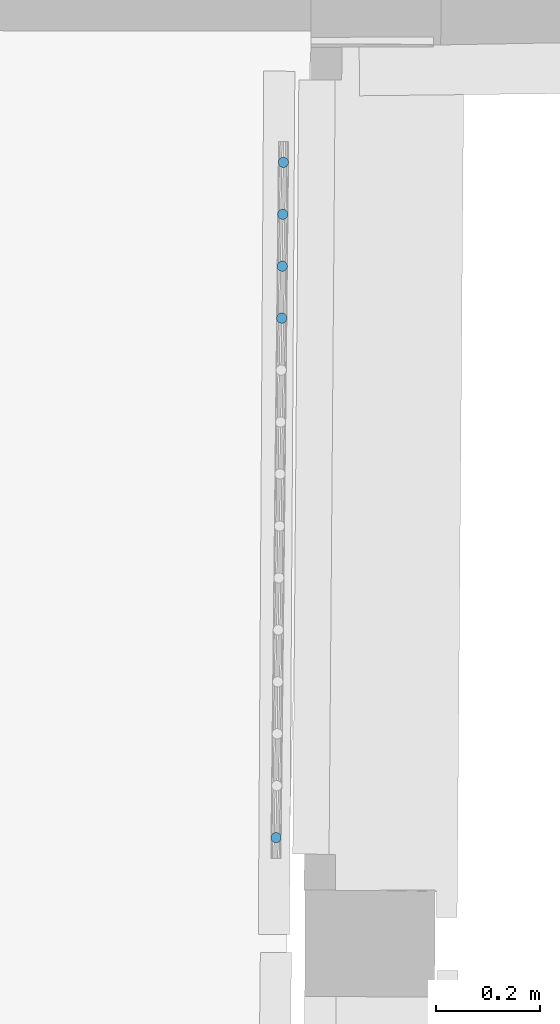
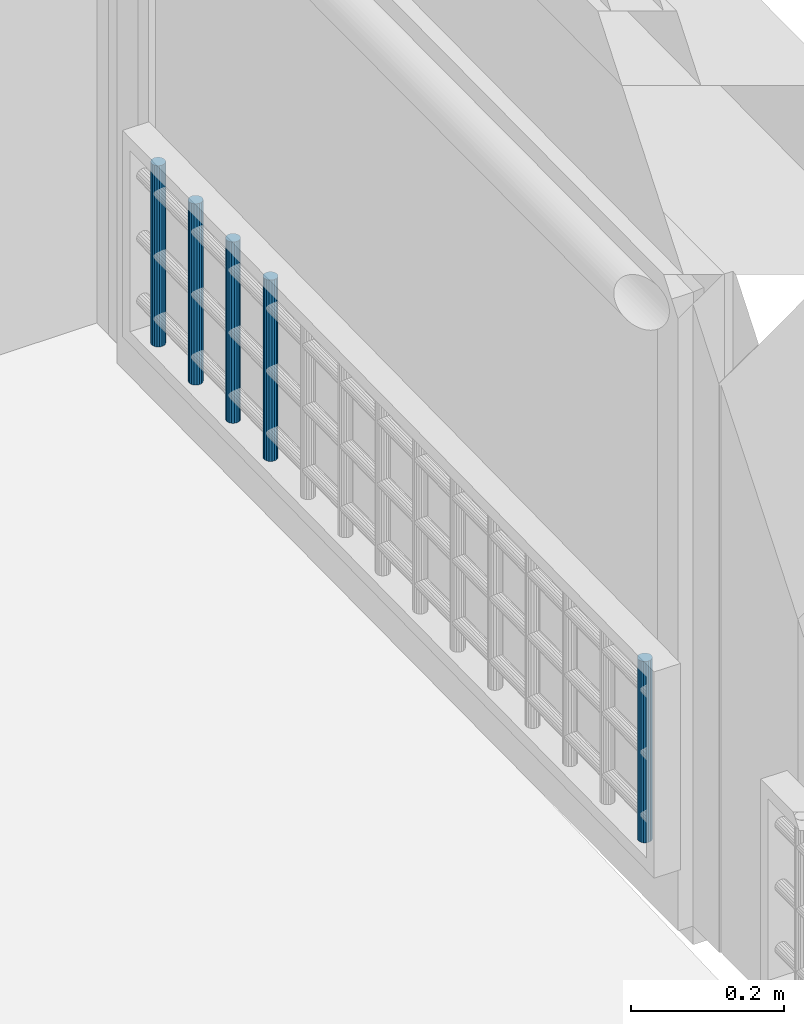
# One storey, part 37 of 97: 5 members, 1 element without a shape of its own.
"""IFC2X3 building model written with IfcOpenShell, lengths in centimetres."""

import ifcopenshell
import ifcopenshell.guid

model = None  # the IFC model being written
_history = None  # IfcOwnerHistory: only IFC2X3 demands one
_inside = {}  # id of a spatial element -> (the spatial element, [elements in it])
_under = {}  # id of a project, library or spatial element -> (it, [spatial elements below it])
_declared = {}  # id of a project -> (the project, [libraries it declares])
_typed = {}  # id of a type object -> (the type object, [elements of that type])
_made_of = {}  # id of a material, layer set ... -> (it, [elements and type objects made of it])


def new_model(schema):
    """Start an empty IFC model of exactly this schema.

    Asked for "IFC4X3", IfcOpenShell would pick the latest addendum, in which some entities
    have other attributes; the version numbers below select the first issue.
    IFC2X3 requires an IfcOwnerHistory on every rooted entity: one is made here for all.
    """
    global model, _history
    if schema == "IFC4X3":
        model = ifcopenshell.file(schema_version=(4, 3, 0, 0))
    else:
        model = ifcopenshell.file(schema=schema)
    _inside.clear()
    _under.clear()
    _declared.clear()
    _typed.clear()
    _made_of.clear()
    _history = None
    if model.schema == "IFC2X3":
        org = make("IfcOrganization", Name="unknown")
        user = make(
            "IfcPersonAndOrganization",
            ThePerson=make("IfcPerson", FamilyName="unknown"),
            TheOrganization=org,
        )
        app = make(
            "IfcApplication",
            ApplicationDeveloper=org,
            Version="unknown",
            ApplicationFullName="unknown",
            ApplicationIdentifier="unknown",
        )
        _history = make(
            "IfcOwnerHistory",
            OwningUser=user,
            OwningApplication=app,
            ChangeAction="ADDED",
            CreationDate=0,
        )
    return model


def make(cls, **values):
    """One entity of the class cls with the attributes given. An attribute that is None is left unset."""
    return model.create_entity(
        cls, **{name: value for name, value in values.items() if value is not None}
    )


def entity(cls, *values):
    """Any entity or typed value of the class cls, its attributes in the order of the schema. None: left unset."""
    e = model.create_entity(cls)
    for i, value in enumerate(values):
        if value is not None:
            e[i] = value
    return e


def rooted(cls, **values):
    """An entity with a GlobalId (a new one), such as an element, a storey or a relation."""
    return make(cls, GlobalId=ifcopenshell.guid.new(), OwnerHistory=_history, **values)


def si_unit(unit_type, name, prefix=None):
    """IfcSIUnit, for example si_unit("LENGTHUNIT", "METRE", prefix="MILLI")."""
    return make("IfcSIUnit", UnitType=unit_type, Prefix=prefix, Name=name)


def converted_unit(unit_type, name, factor, base, dimensions=None, offset=None):
    """IfcConversionBasedUnit, such as the inch: factor (a typed value) times the base unit."""
    return make(
        "IfcConversionBasedUnit"
        if offset is None
        else "IfcConversionBasedUnitWithOffset",
        ConversionOffset=offset,
        Dimensions=None
        if dimensions is None
        else entity("IfcDimensionalExponents", *dimensions),
        UnitType=unit_type,
        Name=name,
        ConversionFactor=make(
            "IfcMeasureWithUnit", ValueComponent=factor, UnitComponent=base
        ),
    )


def assignment(units):
    """IfcUnitAssignment: the units of a project."""
    return None if units is None else make("IfcUnitAssignment", Units=units)


def point(xyz):
    """IfcCartesianPoint."""
    return None if xyz is None else make("IfcCartesianPoint", Coordinates=xyz)


def direction(xyz):
    """IfcDirection."""
    return None if xyz is None else make("IfcDirection", DirectionRatios=xyz)


def frame(location, z_axis=None, x_axis=None):
    """IfcAxis2Placement3D, a coordinate frame: its origin and axes. An axis left out is left unset."""
    return make(
        "IfcAxis2Placement3D",
        Location=point(location),
        Axis=direction(z_axis),
        RefDirection=direction(x_axis),
    )


def origin():
    """The frame at (0, 0, 0) with its axes left unset."""
    return frame((0.0, 0.0, 0.0))


def origin_with_axes():
    """The frame at (0, 0, 0) with the z axis (0, 0, 1) and the x axis (1, 0, 0) written out."""
    return frame((0.0, 0.0, 0.0), z_axis=(0.0, 0.0, 1.0), x_axis=(1.0, 0.0, 0.0))


def place(relative_to, where):
    """IfcLocalPlacement: puts the frame where relative to a parent placement (None: the world)."""
    return make(
        "IfcLocalPlacement", PlacementRelTo=relative_to, RelativePlacement=where
    )


def context(
    kind, dimensions, precision=None, world=None, true_north=None, identifier=None
):
    """IfcGeometricRepresentationContext, for example the 3D "Model" context."""
    return make(
        "IfcGeometricRepresentationContext",
        ContextIdentifier=identifier,
        ContextType=kind,
        CoordinateSpaceDimension=dimensions,
        Precision=precision,
        WorldCoordinateSystem=world,
        TrueNorth=true_north,
    )


def subcontext(parent, identifier, kind, view, scale=None):
    """IfcGeometricRepresentationSubContext, for example "Body" below "Model"."""
    return make(
        "IfcGeometricRepresentationSubContext",
        ContextIdentifier=identifier,
        ContextType=kind,
        ParentContext=parent,
        TargetScale=scale,
        TargetView=view,
    )


def project(units=None, contexts=None):
    """IfcProject with its units and contexts."""
    return rooted(
        "IfcProject",
        Name="project",
        RepresentationContexts=contexts,
        UnitsInContext=assignment(units),
    )


def spatial(cls, under=None, at=None, **own):
    """A site, building, storey or space (cls), placed at a placement, below another one or the project."""
    s = rooted(cls, ObjectPlacement=at, **own)
    if under is not None:
        _under.setdefault(under.id(), (under, []))[1].append(s)
    return s


def faces_of(points, faces, orient=None, outer=None):
    """IfcFace entities. A face is a list of loops; a loop is a list of indices into points, from 0.

    orient and outer hold one flag for each loop. By default every Orientation is true, the
    first loop of a face is its IfcFaceOuterBound and the others are IfcFaceBound.
    """
    made = []
    for i, loops in enumerate(faces):
        bounds = []
        for j, loop in enumerate(loops):
            is_outer = j == 0 if outer is None else outer[i][j]
            bounds.append(
                make(
                    "IfcFaceOuterBound" if is_outer else "IfcFaceBound",
                    Bound=make("IfcPolyLoop", Polygon=[points[k] for k in loop]),
                    Orientation=True if orient is None else orient[i][j],
                )
            )
        made.append(make("IfcFace", Bounds=bounds))
    return made


def faceted_brep(points, faces, orient=None, outer=None, voids=None):
    """IfcFacetedBrep: a solid bounded by flat faces; with voids (closed shells), ...WithVoids."""
    shared = [point(p) for p in points]
    hull = make("IfcClosedShell", CfsFaces=faces_of(shared, faces, orient, outer))
    if voids is None:
        return make("IfcFacetedBrep", Outer=hull)
    return make(
        "IfcFacetedBrepWithVoids",
        Outer=hull,
        Voids=[
            make(cls, CfsFaces=faces_of(shared, fs, o, b)) for cls, fs, o, b in voids
        ],
    )


def shape(context_of_items, identifier, shape_type, items):
    """IfcShapeRepresentation: the items that make up one representation, for example the "Body"."""
    return make(
        "IfcShapeRepresentation",
        ContextOfItems=context_of_items,
        RepresentationIdentifier=identifier,
        RepresentationType=shape_type,
        Items=items,
    )


def material(Name=None, Category=None):
    """IfcMaterial."""
    return make("IfcMaterial", Name=Name, Category=Category)


def made_of(thing, what):
    """Note that an element or type object is made of a material, layer set ...; save() writes the relation."""
    if what is not None:
        _made_of.setdefault(what.id(), (what, []))[1].append(thing)
    return thing


def type_object(cls, material=None, **own):
    """A type object (cls), such as IfcWallType, which elements share."""
    return made_of(rooted(cls, **own), material)


def element(
    cls,
    number,
    at=None,
    inside=None,
    cuts=None,
    type_object=None,
    material=None,
    context=None,
    identifier="Body",
    shape_type=None,
    held_by="IfcProductDefinitionShape",
    body=None,
    shapes=None,
    **own,
):
    """One element of the class cls, such as IfcWall. Its Tag is "e" and its number.

    at: its placement. inside: the storey or other place that contains it. cuts: it is an
    opening in that element (IfcRelVoidsElement). A single representation is given by context,
    identifier, shape_type and body (its items); several are given by shapes. held_by: the class
    of the entity that holds the representations. save() writes the other relations.
    """
    e = rooted(cls, Tag="e%d" % number, ObjectPlacement=at, **own)
    if body is not None:
        shapes = [shape(context, identifier, shape_type, body)]
    if shapes is not None:
        e.Representation = make(held_by, Representations=shapes)
    if inside is not None:
        _inside.setdefault(inside.id(), (inside, []))[1].append(e)
    if cuts is not None:
        rooted(
            "IfcRelVoidsElement", RelatingBuildingElement=cuts, RelatedOpeningElement=e
        )
    if type_object is not None:
        _typed.setdefault(type_object.id(), (type_object, []))[1].append(e)
    return made_of(e, material)


def aggregate(whole, parts):
    """IfcRelAggregates: a whole, such as a stair, and the parts it consists of."""
    return rooted("IfcRelAggregates", RelatingObject=whole, RelatedObjects=parts)


def save(model, path):
    """Write the relations noted so far, then the file.

    IfcRelAggregates (storeys below a building ...), IfcRelContainedInSpatialStructure (elements
    in a storey), IfcRelDefinesByType, IfcRelAssociatesMaterial and IfcRelDeclares: one each for
    every whole, place, type object, material and project.
    """
    for whole, parts in _under.values():
        aggregate(whole, parts)
    for where, things in _inside.values():
        rooted(
            "IfcRelContainedInSpatialStructure",
            RelatedElements=things,
            RelatingStructure=where,
        )
    for kind, things in _typed.values():
        rooted("IfcRelDefinesByType", RelatedObjects=things, RelatingType=kind)
    for what, things in _made_of.values():
        rooted("IfcRelAssociatesMaterial", RelatedObjects=things, RelatingMaterial=what)
    for by, libraries in _declared.values():
        rooted("IfcRelDeclares", RelatingContext=by, RelatedDefinitions=libraries)
    model.write(path)


model = new_model("IFC2X3")

# Units and contexts
model_context = context("Model", 3, precision=0.0001, world=origin(), true_north=direction((0.225632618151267, 0.974212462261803, 0.0)))
body_context = subcontext(model_context, "Body", "Model", "MODEL_VIEW")
ifc_project = project(units=[si_unit("LENGTHUNIT", "METRE", prefix="CENTI"), si_unit("AREAUNIT", "SQUARE_METRE", prefix="CENTI"), si_unit("VOLUMEUNIT", "CUBIC_METRE", prefix="CENTI"), converted_unit("PLANEANGLEUNIT", "DEGREE", entity("IfcRatioMeasure", 0.0174532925), si_unit("PLANEANGLEUNIT", "RADIAN"), dimensions=[0, 0, 0, 0, 0, 0, 0])], contexts=[model_context])

# Site, building, storey
site_placement = place(None, origin_with_axes())
site = spatial("IfcSite", under=ifc_project, at=site_placement, Name="Default Site", CompositionType="ELEMENT")
building_placement = place(site_placement, origin_with_axes())
building = spatial("IfcBuilding", under=site, at=building_placement, Name="Default Building", CompositionType="ELEMENT")
storey_placement = place(building_placement, origin_with_axes())
storey = spatial("IfcBuildingStorey", under=building, at=storey_placement, Name="Rez-de-chaussée", CompositionType="ELEMENT", Elevation=0.0)

# Assembly, members
building_element_proxy_type = type_object("IfcBuildingElementProxyType", Name="Type Object", PredefinedType="NOTDEFINED")
assembly_placement = place(storey_placement, frame((1067.41070761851, 134.057314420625, 12.0), z_axis=(0.0, 0.0, 1.0), x_axis=(-0.0108104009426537, -0.999941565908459, 0.0)))
assembly = element("IfcElementAssembly", 1, at=assembly_placement, inside=storey, type_object=building_element_proxy_type, Name="Panneau 1702033", ObjectType="Precast panel", PredefinedType="USERDEFINED")
ifc_material = material(Name="Aluminium satiné")
member_1_placement = place(assembly_placement, frame((6.9396927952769, 0.342020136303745, 31.0000002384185), z_axis=(0.0, 0.0, 1.0), x_axis=(0.500000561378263, -0.866025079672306, 0.0)))
member_1 = element("IfcMember", 2, at=member_1_placement, material=ifc_material, Name="4294967093", context=body_context, shape_type="Brep", body=[
    faceted_brep([(-1.05818132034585e-12, 4.08006961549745e-13, 4.9960036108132e-14), (-0.347296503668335, 4.3229309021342e-13, 4.9960036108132e-14), (-0.673648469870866, -0.118782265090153, 4.9960036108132e-14), (-0.939692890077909, -0.342019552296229, 4.9960036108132e-14), (-1.11334134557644, -0.642787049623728, 4.9960036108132e-14), (-1.17364892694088, -0.984807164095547, 4.9960036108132e-14), (-1.11334184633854, -1.3268274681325, 4.9960036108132e-14), (-0.939693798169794, -1.62759496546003, 4.9960036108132e-14), (-0.673649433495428, -1.85083280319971, 4.9960036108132e-14), (-0.34729776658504, -1.96961548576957, 4.9960036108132e-14), (-1.44918248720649e-06, -1.96961580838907, 4.9960036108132e-14), (0.326350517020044, -1.85083354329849, 4.9960036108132e-14), (0.592395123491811, -1.62759593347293, 4.9960036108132e-14), (0.766043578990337, -1.32682843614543, 4.9960036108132e-14), (0.826350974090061, -0.984808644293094, 4.9960036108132e-14), (0.766043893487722, -0.642788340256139, 4.9960036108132e-14), (0.592396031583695, -0.342020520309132, 4.9960036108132e-14), (0.32635166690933, -0.118782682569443, 4.9960036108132e-14), (0.32635166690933, -0.118782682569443, -29.000000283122), (0.592396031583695, -0.342020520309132, -29.000000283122), (0.766043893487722, -0.642788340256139, -29.000000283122), (0.826350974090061, -0.984808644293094, -29.000000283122), (0.766043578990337, -1.32682843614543, -29.000000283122), (0.592395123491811, -1.62759593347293, -29.000000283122), (0.326350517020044, -1.85083354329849, -29.000000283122), (-1.44918248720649e-06, -1.96961580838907, -29.000000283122), (-0.34729776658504, -1.96961548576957, -29.000000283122), (-0.673649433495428, -1.85083280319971, -29.000000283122), (-0.939693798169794, -1.62759496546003, -29.000000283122), (-1.11334184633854, -1.3268274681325, -29.000000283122), (-1.17364892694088, -0.984807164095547, -29.000000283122), (-1.11334134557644, -0.642787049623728, -29.000000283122), (-0.939692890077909, -0.342019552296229, -29.000000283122), (-0.673648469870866, -0.118782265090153, -29.000000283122), (-0.347296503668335, 4.3229309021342e-13, -29.000000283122), (-1.05818132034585e-12, 4.08006961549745e-13, -29.000000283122), (0.592395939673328, -0.342020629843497, 4.99600361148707e-14), (0.592395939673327, -0.342020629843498, -29.000000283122), (0.326351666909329, -0.118782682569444, -29.000000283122), (0.766044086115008, -0.642788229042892, 4.9960036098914e-14), (0.766044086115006, -0.642788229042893, -29.000000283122), (0.592396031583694, -0.342020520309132, -29.000000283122), (0.826351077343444, -0.984808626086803, 4.99600361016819e-14), (0.826351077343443, -0.984808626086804, -29.000000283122), (0.76604389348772, -0.642788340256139, -29.000000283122), (0.766043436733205, -1.32682841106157, 4.99600361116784e-14), (0.766043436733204, -1.32682841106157, -29.000000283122), (0.59239512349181, -1.62759593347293, 4.9960036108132e-14), (0.59239512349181, -1.62759593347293, -29.000000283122), (0.32635052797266, -1.85083355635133, 4.99600361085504e-14), (0.326350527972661, -1.85083355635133, -29.000000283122), (-1.48504194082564e-06, -1.96961570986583, 4.99600361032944e-14), (-1.48504194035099e-06, -1.96961570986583, -29.000000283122), (0.326350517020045, -1.85083354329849, -29.000000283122), (-0.347297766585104, -1.96961558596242, 4.99600361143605e-14), (-0.347297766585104, -1.96961558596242, -29.000000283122), (-1.44918248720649e-06, -1.96961580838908, -29.000000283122), (-0.673649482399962, -1.85083293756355, 4.996003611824e-14), (-0.673649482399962, -1.85083293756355, -29.000000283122), (-0.939693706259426, -1.62759485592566, 4.99600360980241e-14), (-0.939693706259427, -1.62759485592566, -29.000000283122), (-0.673649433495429, -1.85083280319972, -29.000000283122), (-1.11334175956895, -1.32682741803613, 4.99600361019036e-14), (-1.11334175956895, -1.32682741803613, -29.000000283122), (-0.939693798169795, -1.62759496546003, -29.000000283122), (-1.17364903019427, -0.984807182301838, 4.99600361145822e-14), (-1.17364903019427, -0.984807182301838, -29.000000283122), (-1.11334184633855, -1.3268274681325, -29.000000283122), (-1.11334132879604, -0.642787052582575, 4.99600361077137e-14), (-1.11334132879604, -0.642787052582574, -29.000000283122), (-0.673648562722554, -0.118782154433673, 4.99600361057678e-14), (-0.673648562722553, -0.118782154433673, -29.000000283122), (-0.347296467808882, -9.85228126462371e-08, 4.99600361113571e-14), (-0.347296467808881, -9.85228134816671e-08, -29.000000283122), (-1.20063499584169e-12, -2.22426339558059e-07, 4.99600361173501e-14), (-1.20063499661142e-12, -2.2242634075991e-07, -29.000000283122), (-0.347296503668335, 4.31091238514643e-13, -29.000000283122), (0.326351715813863, -0.11878254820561, 4.99600361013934e-14), (0.326351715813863, -0.118782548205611, -29.000000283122), (-1.05864875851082e-12, 4.06722688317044e-13, -29.000000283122)], [[[0, 1, 2, 3, 4, 5, 6, 7, 8, 9, 10, 11, 12, 13, 14, 15, 16, 17]], [[18, 19, 20, 21, 22, 23, 24, 25, 26, 27, 28, 29, 30, 31, 32, 33, 34, 35]], [[17, 36, 37, 38]], [[16, 39, 40, 41]], [[15, 42, 43, 44]], [[14, 45, 46, 21]], [[13, 47, 48, 22]], [[12, 49, 50, 23]], [[11, 51, 52, 53]], [[10, 54, 55, 56]], [[9, 57, 58, 26]], [[8, 59, 60, 61]], [[7, 62, 63, 64]], [[6, 65, 66, 67]], [[5, 68, 69, 30]], [[4, 3, 32, 31]], [[3, 70, 71, 32]], [[2, 72, 73, 33]], [[1, 74, 75, 76]], [[0, 77, 78, 79]]]),
])
member_2_placement = place(assembly_placement, frame((16.9396921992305, 0.342020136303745, 31.0000002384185), z_axis=(0.0, 0.0, 1.0), x_axis=(0.49999895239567, -0.866026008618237, 0.0)))
member_2 = element("IfcMember", 3, at=member_2_placement, material=ifc_material, Name="4294967092", context=body_context, shape_type="Brep", body=[
    faceted_brep([(-1.17683640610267e-12, 5.13478148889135e-13, 4.9960036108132e-14), (-0.347296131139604, 5.35682609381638e-13, 4.9960036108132e-14), (-0.673647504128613, -0.118782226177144, 4.9960036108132e-14), (-0.93969169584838, -0.342020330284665, 4.9960036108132e-14), (-1.11333977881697, -0.642788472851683, 4.9960036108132e-14), (-1.17364672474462, -0.984808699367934, 4.9960036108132e-14), (-1.11333863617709, -1.32682824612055, 4.9960036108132e-14), (-0.939690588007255, -1.62759638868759, 4.9960036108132e-14), (-0.673645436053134, -1.85083308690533, 4.9960036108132e-14), (-0.347293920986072, -1.96961580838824, 4.9960036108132e-14), (2.95520885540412e-06, -1.96961451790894, 4.9960036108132e-14), (0.326354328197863, -1.85083229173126, 4.9960036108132e-14), (0.592398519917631, -1.62759418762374, 4.9960036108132e-14), (0.766046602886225, -1.32682604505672, 4.9960036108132e-14), (0.826353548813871, -0.984805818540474, 4.9960036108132e-14), (0.76604546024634, -0.642786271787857, 4.9960036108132e-14), (0.592396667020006, -0.342019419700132, 4.9960036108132e-14), (0.326352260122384, -0.11878143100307, 4.9960036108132e-14), (0.326352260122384, -0.11878143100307, -29.000000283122), (0.592396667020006, -0.342019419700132, -29.000000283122), (0.76604546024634, -0.642786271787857, -29.000000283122), (0.826353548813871, -0.984805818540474, -29.000000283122), (0.766046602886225, -1.32682604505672, -29.000000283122), (0.592398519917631, -1.62759418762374, -29.000000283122), (0.326354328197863, -1.85083229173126, -29.000000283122), (2.95520885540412e-06, -1.96961451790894, -29.000000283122), (-0.347293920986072, -1.96961580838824, -29.000000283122), (-0.673645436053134, -1.85083308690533, -29.000000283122), (-0.939690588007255, -1.62759638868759, -29.000000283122), (-1.11333863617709, -1.32682824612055, -29.000000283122), (-1.17364672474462, -0.984808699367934, -29.000000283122), (-1.11333977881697, -0.642788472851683, -29.000000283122), (-0.93969169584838, -0.342020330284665, -29.000000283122), (-0.673647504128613, -0.118782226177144, -29.000000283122), (-0.347296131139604, 5.35682609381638e-13, -29.000000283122), (-1.17683640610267e-12, 5.13478148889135e-13, -29.000000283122), (0.592397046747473, -0.342018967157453, 4.99600360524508e-14), (0.592397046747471, -0.342018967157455, -29.000000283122), (0.326352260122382, -0.118781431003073, -29.000000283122), (0.766045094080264, -0.642786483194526, 4.99600361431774e-14), (0.766045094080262, -0.642786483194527, -29.000000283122), (0.592396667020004, -0.342019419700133, -29.000000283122), (0.826353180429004, -0.984805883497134, 4.99600361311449e-14), (0.826353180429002, -0.984805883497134, -29.000000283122), (0.766045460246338, -0.642786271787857, -29.000000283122), (0.766046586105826, -1.32682604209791, 4.99600361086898e-14), (0.766046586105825, -1.32682604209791, -29.000000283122), (0.82635354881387, -0.984805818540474, -29.000000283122), (0.326354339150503, -1.85083230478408, 4.99600361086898e-14), (0.326354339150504, -1.85083230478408, -29.000000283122), (3.08314802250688e-06, -1.96961486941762, 4.9960036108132e-14), (3.08314802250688e-06, -1.96961486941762, -29.000000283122), (-0.347293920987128, -1.96961494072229, 4.99600360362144e-14), (-0.347293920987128, -1.96961494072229, -29.000000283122), (2.95520885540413e-06, -1.96961451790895, -29.000000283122), (-0.673645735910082, -1.85083391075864, 4.99600361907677e-14), (-0.673645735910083, -1.85083391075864, -29.000000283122), (-0.347293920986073, -1.96961580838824, -29.000000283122), (-0.939690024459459, -1.62759571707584, 4.99600360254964e-14), (-0.939690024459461, -1.62759571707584, -29.000000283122), (-0.673645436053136, -1.85083308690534, -29.000000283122), (-1.11333938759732, -1.32682867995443, 4.9960036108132e-14), (-1.11333938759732, -1.32682867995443, -29.000000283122), (-1.17364635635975, -0.984808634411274, 4.99600360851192e-14), (-1.17364635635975, -0.984808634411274, -29.000000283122), (-1.11333976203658, -0.642788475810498, 4.99600361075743e-14), (-1.11333976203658, -0.642788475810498, -29.000000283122), (-0.673647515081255, -0.118782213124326, 4.99600361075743e-14), (-0.673647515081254, -0.118782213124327, -29.000000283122), (-0.939691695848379, -0.342020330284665, -29.000000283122), (-0.347296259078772, 3.51509210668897e-07, 4.99600360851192e-14), (-0.347296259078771, 3.51509208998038e-07, -29.000000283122), (-0.673647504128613, -0.118782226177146, -29.000000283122), (-1.69158549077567e-12, 4.2281297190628e-07, 4.99600360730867e-14), (-1.69158548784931e-12, 4.22812969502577e-07, -29.000000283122), (-0.347296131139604, 5.33278905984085e-13, -29.000000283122), (0.326352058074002, -0.118781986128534, 4.99600361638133e-14), (0.326352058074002, -0.118781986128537, -29.000000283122), (-1.17777127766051e-12, 5.10909600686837e-13, -29.000000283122)], [[[0, 1, 2, 3, 4, 5, 6, 7, 8, 9, 10, 11, 12, 13, 14, 15, 16, 17]], [[18, 19, 20, 21, 22, 23, 24, 25, 26, 27, 28, 29, 30, 31, 32, 33, 34, 35]], [[17, 36, 37, 38]], [[16, 39, 40, 41]], [[15, 42, 43, 44]], [[14, 45, 46, 47]], [[13, 12, 23, 22]], [[12, 48, 49, 23]], [[11, 50, 51, 24]], [[10, 52, 53, 54]], [[9, 55, 56, 57]], [[8, 58, 59, 60]], [[7, 61, 62, 28]], [[6, 63, 64, 29]], [[5, 65, 66, 30]], [[4, 3, 32, 31]], [[3, 67, 68, 69]], [[2, 70, 71, 72]], [[1, 73, 74, 75]], [[0, 76, 77, 78]]]),
])
member_3_placement = place(assembly_placement, frame((26.9396930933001, 0.342020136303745, 31.0000002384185), z_axis=(0.0, 0.0, 1.0), x_axis=(0.500002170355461, -0.866024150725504, 0.0)))
member_3 = element("IfcMember", 4, at=member_3_placement, material=ifc_material, Name="4294967091", context=body_context, shape_type="Brep", body=[
    faceted_brep([(-1.25177646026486e-12, 4.96824803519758e-13, 4.9960036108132e-14), (-0.347296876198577, 4.413136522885e-13, 4.9960036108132e-14), (-0.673649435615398, -0.11878230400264, 4.9960036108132e-14), (-0.939693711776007, -0.342018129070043, 4.9960036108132e-14), (-1.11334216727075, -0.642784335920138, 4.9960036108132e-14), (-1.17365112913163, -0.984805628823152, 4.9960036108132e-14), (-1.11334505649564, -1.32682669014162, 4.9960036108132e-14), (-0.939696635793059, -1.62759289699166, 4.9960036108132e-14), (-0.673653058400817, -1.85083187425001, 4.9960036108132e-14), (-0.347301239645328, -1.9696145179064, 4.9960036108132e-14), (-5.85357059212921e-06, -1.96961709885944, 4.9960036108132e-14), (0.326346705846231, -1.85083479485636, 4.9960036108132e-14), (0.592392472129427, -1.62759638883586, 4.9960036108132e-14), (0.766040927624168, -1.32683018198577, 4.9960036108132e-14), (0.826348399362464, -0.984811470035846, 4.9960036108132e-14), (0.766042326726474, -0.642790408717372, 4.9960036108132e-14), (0.592395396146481, -0.342021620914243, 4.9960036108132e-14), (0.326351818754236, -0.118782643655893, 4.9960036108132e-14), (0.326351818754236, -0.118782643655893, -29.000000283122), (0.592395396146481, -0.342021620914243, -29.000000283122), (0.766042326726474, -0.642790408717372, -29.000000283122), (0.826348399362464, -0.984811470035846, -29.000000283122), (0.766040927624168, -1.32683018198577, -29.000000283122), (0.592392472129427, -1.62759638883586, -29.000000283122), (0.326346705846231, -1.85083479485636, -29.000000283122), (-5.85357059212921e-06, -1.96961709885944, -29.000000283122), (-0.347301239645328, -1.9696145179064, -29.000000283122), (-0.673653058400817, -1.85083187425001, -29.000000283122), (-0.939696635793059, -1.62759289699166, -29.000000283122), (-1.11334505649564, -1.32682669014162, -29.000000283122), (-1.17365112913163, -0.984805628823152, -29.000000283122), (-1.11334216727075, -0.642784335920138, -29.000000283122), (-0.939693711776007, -0.342018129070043, -29.000000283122), (-0.673649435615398, -0.11878230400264, -29.000000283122), (-0.347296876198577, 4.413136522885e-13, -29.000000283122), (-1.25177646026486e-12, 4.96824803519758e-13, -29.000000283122), (0.592395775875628, -0.342021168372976, 4.9960036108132e-14), (0.592395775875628, -0.342021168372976, -29.000000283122), (0.766043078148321, -0.642789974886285, 4.99600359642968e-14), (0.766043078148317, -0.642789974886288, -29.000000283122), (0.592395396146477, -0.342021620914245, -29.000000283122), (0.826348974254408, -0.984811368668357, 4.99600360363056e-14), (0.826348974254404, -0.984811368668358, -29.000000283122), (0.76604232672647, -0.642790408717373, -29.000000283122), (0.766040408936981, -1.32683009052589, 4.99600361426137e-14), (0.766040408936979, -1.32683009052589, -29.000000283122), (0.826348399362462, -0.984811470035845, -29.000000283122), (0.592392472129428, -1.62759638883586, 4.9960036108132e-14), (0.592392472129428, -1.62759638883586, -29.000000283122), (0.326346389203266, -1.85083441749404, 4.99600360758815e-14), (0.326346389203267, -1.85083441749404, -29.000000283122), (-6.0532269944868e-06, -1.96961655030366, 4.9960036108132e-14), (-6.0532269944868e-06, -1.96961655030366, -29.000000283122), (-0.347301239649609, -1.96961623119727, 4.9960036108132e-14), (-0.347301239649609, -1.96961623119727, -29.000000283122), (-0.673652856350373, -1.8508313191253, 4.99600360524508e-14), (-0.673652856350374, -1.8508313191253, -29.000000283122), (-0.347301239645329, -1.9696145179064, -29.000000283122), (-0.939697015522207, -1.62759334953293, 4.9960036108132e-14), (-0.939697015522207, -1.62759334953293, -29.000000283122), (-1.11334357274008, -1.32682583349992, 4.9960036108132e-14), (-1.11334357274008, -1.32682583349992, -29.000000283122), (-1.17365170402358, -0.98480573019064, 4.99600361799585e-14), (-1.17365170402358, -0.984805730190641, -29.000000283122), (-1.11334505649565, -1.32682669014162, -29.000000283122), (-1.11334265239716, -0.642784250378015, 4.99600361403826e-14), (-1.11334265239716, -0.642784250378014, -29.000000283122), (-1.17365112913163, -0.984805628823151, -29.000000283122), (-0.939693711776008, -0.342018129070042, 4.9960036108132e-14), (-0.939693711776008, -0.342018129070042, -29.000000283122), (-0.673649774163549, -0.118781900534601, 4.99600360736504e-14), (-0.673649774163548, -0.118781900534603, -29.000000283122), (-0.939693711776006, -0.342018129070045, -29.000000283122), (-0.347296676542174, -5.48555335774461e-07, 4.99600361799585e-14), (-0.347296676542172, -5.48555339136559e-07, -29.000000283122), (-0.673649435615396, -0.118782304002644, -29.000000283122), (-3.41950154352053e-12, -8.67665451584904e-07, 4.9960036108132e-14), (-3.41950154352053e-12, -8.67665451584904e-07, -29.000000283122), (0.326351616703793, -0.118783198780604, 4.99600362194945e-14), (0.326351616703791, -0.118783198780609, -29.000000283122), (-1.25364622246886e-12, 4.91687714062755e-13, -29.000000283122)], [[[0, 1, 2, 3, 4, 5, 6, 7, 8, 9, 10, 11, 12, 13, 14, 15, 16, 17]], [[18, 19, 20, 21, 22, 23, 24, 25, 26, 27, 28, 29, 30, 31, 32, 33, 34, 35]], [[17, 36, 37, 18]], [[16, 38, 39, 40]], [[15, 41, 42, 43]], [[14, 44, 45, 46]], [[13, 47, 48, 22]], [[12, 49, 50, 48]], [[11, 51, 52, 24]], [[10, 53, 54, 25]], [[9, 55, 56, 57]], [[8, 58, 59, 27]], [[7, 60, 61, 28]], [[6, 62, 63, 64]], [[5, 65, 66, 67]], [[4, 68, 69, 31]], [[3, 70, 71, 72]], [[2, 73, 74, 75]], [[1, 76, 77, 34]], [[0, 78, 79, 80]]]),
])
member_4_placement = place(assembly_placement, frame((36.9396924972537, 0.342020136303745, 31.0000002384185), z_axis=(0.0, 0.0, 1.0), x_axis=(0.500002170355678, -0.866024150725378, 0.0)))
member_4 = element("IfcMember", 5, at=member_4_placement, material=ifc_material, Name="4294967090", context=body_context, shape_type="Brep", body=[
    faceted_brep([(-9.6034291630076e-13, 4.55191440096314e-13, 4.9960036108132e-14), (-0.347296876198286, 4.82947015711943e-13, 4.9960036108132e-14), (-0.67364794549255, -0.118779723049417, 4.9960036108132e-14), (-0.939693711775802, -0.342018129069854, 4.9960036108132e-14), (-1.11334216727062, -0.642784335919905, 4.9960036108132e-14), (-1.17365112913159, -0.984805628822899, 4.9960036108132e-14), (-1.1133435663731, -1.3268241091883, 4.9960036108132e-14), (-0.939696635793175, -1.62759289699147, 4.9960036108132e-14), (-0.673653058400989, -1.85083187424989, 4.9960036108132e-14), (-0.347301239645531, -1.96961451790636, 4.9960036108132e-14), (-4.36344820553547e-06, -1.96961451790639, 4.9960036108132e-14), (0.326346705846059, -1.85083479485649, 4.9960036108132e-14), (0.592392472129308, -1.62759638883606, 4.9960036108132e-14), (0.766040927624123, -1.32683018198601, 4.9960036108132e-14), (0.826349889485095, -0.984808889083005, 4.9960036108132e-14), (0.766042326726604, -0.642790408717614, 4.9960036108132e-14), (0.592395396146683, -0.342021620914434, 4.9960036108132e-14), (0.326351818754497, -0.118782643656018, 4.9960036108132e-14), (0.326351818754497, -0.118782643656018, -29.000000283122), (0.592395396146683, -0.342021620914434, -29.000000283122), (0.766042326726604, -0.642790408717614, -29.000000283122), (0.826349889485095, -0.984808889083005, -29.000000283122), (0.766040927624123, -1.32683018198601, -29.000000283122), (0.592392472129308, -1.62759638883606, -29.000000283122), (0.326346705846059, -1.85083479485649, -29.000000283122), (-4.36344820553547e-06, -1.96961451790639, -29.000000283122), (-0.347301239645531, -1.96961451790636, -29.000000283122), (-0.673653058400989, -1.85083187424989, -29.000000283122), (-0.939696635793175, -1.62759289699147, -29.000000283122), (-1.1133435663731, -1.3268241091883, -29.000000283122), (-1.17365112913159, -0.984805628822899, -29.000000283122), (-1.11334216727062, -0.642784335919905, -29.000000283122), (-0.939693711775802, -0.342018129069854, -29.000000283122), (-0.67364794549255, -0.118779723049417, -29.000000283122), (-0.347296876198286, 4.82947015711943e-13, -29.000000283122), (-9.6034291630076e-13, 4.55191440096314e-13, -29.000000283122), (0.592395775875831, -0.342021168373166, 4.9960036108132e-14), (0.592395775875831, -0.342021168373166, -29.000000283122), (0.766043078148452, -0.642789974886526, 4.9960036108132e-14), (0.766043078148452, -0.642789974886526, -29.000000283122), (0.826348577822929, -0.984809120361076, 4.9960036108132e-14), (0.826348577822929, -0.984809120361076, -29.000000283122), (0.766041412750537, -1.32683026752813, 4.9960036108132e-14), (0.766041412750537, -1.32683026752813, -29.000000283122), (0.592392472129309, -1.62759638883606, 4.9960036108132e-14), (0.592392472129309, -1.62759638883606, -29.000000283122), (0.326346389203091, -1.85083441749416, 4.9960036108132e-14), (0.326346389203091, -1.85083441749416, -29.000000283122), (-3.90791608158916e-06, -1.96961576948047, 4.9960036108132e-14), (-3.90791608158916e-06, -1.96961576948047, -29.000000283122), (-0.347301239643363, -1.96961365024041, 4.9960036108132e-14), (-0.347301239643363, -1.96961365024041, -29.000000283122), (-0.673652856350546, -1.85083131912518, 4.9960036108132e-14), (-0.673652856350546, -1.85083131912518, -29.000000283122), (-0.939697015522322, -1.62759334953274, 4.9960036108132e-14), (-0.939697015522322, -1.62759334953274, -29.000000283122), (-1.11334431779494, -1.32682454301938, 4.9960036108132e-14), (-1.11334431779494, -1.32682454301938, -29.000000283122), (-1.17364981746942, -0.984805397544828, 4.9960036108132e-14), (-1.17364981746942, -0.984805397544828, -29.000000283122), (-1.11334265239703, -0.642784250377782, 4.9960036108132e-14), (-1.11334265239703, -0.642784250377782, -29.000000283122), (-0.939693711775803, -0.342018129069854, 4.9960036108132e-14), (-0.939693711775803, -0.342018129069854, -29.000000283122), (-0.673647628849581, -0.118780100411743, 4.9960036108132e-14), (-0.673647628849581, -0.118780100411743, -29.000000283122), (-0.347297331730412, 1.25157456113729e-06, 4.9960036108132e-14), (-0.347297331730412, 1.25157456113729e-06, -29.000000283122), (-3.12806822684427e-12, -8.67665497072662e-07, 4.9960036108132e-14), (-3.12806822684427e-12, -8.67665497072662e-07, -29.000000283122), (0.326351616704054, -0.118783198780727, 4.9960036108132e-14), (0.326351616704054, -0.118783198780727, -29.000000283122)], [[[0, 1, 2, 3, 4, 5, 6, 7, 8, 9, 10, 11, 12, 13, 14, 15, 16, 17]], [[18, 19, 20, 21, 22, 23, 24, 25, 26, 27, 28, 29, 30, 31, 32, 33, 34, 35]], [[17, 36, 37, 18]], [[16, 38, 39, 19]], [[15, 40, 41, 20]], [[14, 42, 43, 21]], [[13, 44, 45, 22]], [[12, 46, 47, 23]], [[11, 48, 49, 24]], [[10, 50, 51, 25]], [[9, 52, 53, 26]], [[8, 54, 55, 27]], [[7, 56, 57, 28]], [[6, 58, 59, 29]], [[5, 60, 61, 30]], [[4, 62, 63, 31]], [[3, 64, 65, 32]], [[2, 66, 67, 33]], [[1, 68, 69, 34]], [[0, 70, 71, 35]]]),
])
member_5_placement = place(assembly_placement, frame((136.939692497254, 0.342020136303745, 31.0000002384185), z_axis=(0.0, 0.0, 1.0), x_axis=(0.500008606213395, -0.866020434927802, 0.0)))
member_5 = element("IfcMember", 6, at=member_5_placement, material=ifc_material, Name="4294967080", context=body_context, shape_type="Brep", body=[
    faceted_brep([(-9.99200722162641e-13, 5.77315972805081e-13, 4.9960036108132e-14), (-0.347298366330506, 5.77315972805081e-13, 4.9960036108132e-14), (-0.67364882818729, -0.118774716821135, 4.9960036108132e-14), (-0.939693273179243, -0.342005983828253, 4.9960036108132e-14), (-1.11334843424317, -0.642778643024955, 4.9960036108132e-14), (-1.17365695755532, -0.984794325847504, 4.9960036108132e-14), (-1.11335640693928, -1.32682099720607, 4.9960036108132e-14), (-0.939707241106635, -1.62758333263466, 4.9960036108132e-14), (-0.673665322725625, -1.85082428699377, 4.9960036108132e-14), (-0.347314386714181, -1.9696093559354, 4.9960036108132e-14), (-2.19809517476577e-05, -1.96961967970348, 4.9960036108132e-14), (0.326334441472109, -1.85083463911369, 4.9960036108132e-14), (0.592378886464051, -1.62760337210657, 4.9960036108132e-14), (0.766034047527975, -1.32683071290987, 4.9960036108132e-14), (0.826342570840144, -0.984815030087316, 4.9960036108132e-14), (0.766036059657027, -0.642798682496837, 4.9960036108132e-14), (0.592392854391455, -0.342026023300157, 4.9960036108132e-14), (0.326350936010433, -0.118785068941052, 4.9960036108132e-14), (0.326350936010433, -0.118785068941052, -29.000000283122), (0.592392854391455, -0.342026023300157, -29.000000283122), (0.766036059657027, -0.642798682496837, -29.000000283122), (0.826342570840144, -0.984815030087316, -29.000000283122), (0.766034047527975, -1.32683071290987, -29.000000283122), (0.592378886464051, -1.62760337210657, -29.000000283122), (0.326334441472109, -1.85083463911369, -29.000000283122), (-2.19809517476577e-05, -1.96961967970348, -29.000000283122), (-0.347314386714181, -1.9696093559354, -29.000000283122), (-0.673665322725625, -1.85082428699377, -29.000000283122), (-0.939707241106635, -1.62758333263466, -29.000000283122), (-1.11335640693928, -1.32682099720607, -29.000000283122), (-1.17365695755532, -0.984794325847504, -29.000000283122), (-1.11334843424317, -0.642778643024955, -29.000000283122), (-0.939693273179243, -0.342005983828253, -29.000000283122), (-0.67364882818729, -0.118774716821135, -29.000000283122), (-0.347298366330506, 5.77315972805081e-13, -29.000000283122), (-9.99200722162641e-13, 5.77315972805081e-13, -29.000000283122), (0.592393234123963, -0.342025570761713, 4.9960036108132e-14), (0.592393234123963, -0.342025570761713, -29.000000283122), (0.76603904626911, -0.64279695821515, 4.9960036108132e-14), (0.76603904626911, -0.64279695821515, -29.000000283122), (0.826339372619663, -0.984815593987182, 4.9960036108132e-14), (0.826339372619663, -0.984815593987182, -29.000000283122), (0.766032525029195, -1.32683044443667, 4.9960036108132e-14), (0.766032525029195, -1.32683044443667, -29.000000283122), (0.592378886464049, -1.62760337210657, 4.9960036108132e-14), (0.592378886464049, -1.62760337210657, -29.000000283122), (0.326335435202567, -1.85083582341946, 4.9960036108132e-14), (0.326335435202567, -1.85083582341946, -29.000000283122), (-2.34909543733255e-05, -1.96961553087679, 4.9960036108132e-14), (-2.34909543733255e-05, -1.96961553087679, -29.000000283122), (-0.347314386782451, -1.96961623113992, 4.9960036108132e-14), (-0.347314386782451, -1.96961623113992, -29.000000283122), (-0.673665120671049, -1.85082373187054, 4.9960036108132e-14), (-0.673665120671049, -1.85082373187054, -29.000000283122), (-0.939707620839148, -1.62758378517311, 4.9960036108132e-14), (-0.939707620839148, -1.62758378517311, -29.000000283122), (-1.11335045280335, -1.32681755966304, 4.9960036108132e-14), (-1.11335045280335, -1.32681755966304, -29.000000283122), (-1.17366130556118, -0.984795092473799, 4.9960036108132e-14), (-1.17366130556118, -0.984795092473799, -29.000000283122), (-1.11334691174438, -0.642778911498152, 4.9960036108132e-14), (-1.11334691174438, -0.642778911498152, -29.000000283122), (-0.93969327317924, -0.342005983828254, 4.9960036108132e-14), (-0.93969327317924, -0.342005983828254, -29.000000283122), (-0.673649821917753, -0.118773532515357, 4.9960036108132e-14), (-0.673649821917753, -0.118773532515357, -29.000000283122), (-0.34729947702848, 3.05171275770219e-06, 4.9960036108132e-14), (-0.34729947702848, 3.05171275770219e-06, -29.000000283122), (-3.52435277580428e-11, -3.4486221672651e-06, 4.9960036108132e-14), (-3.52435277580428e-11, -3.4486221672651e-06, -29.000000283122), (0.326350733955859, -0.118785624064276, 4.9960036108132e-14), (0.326350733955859, -0.118785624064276, -29.000000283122)], [[[0, 1, 2, 3, 4, 5, 6, 7, 8, 9, 10, 11, 12, 13, 14, 15, 16, 17]], [[18, 19, 20, 21, 22, 23, 24, 25, 26, 27, 28, 29, 30, 31, 32, 33, 34, 35]], [[17, 36, 37, 18]], [[16, 38, 39, 19]], [[15, 40, 41, 20]], [[14, 42, 43, 21]], [[13, 44, 45, 22]], [[12, 46, 47, 23]], [[11, 48, 49, 24]], [[10, 50, 51, 25]], [[9, 52, 53, 26]], [[8, 54, 55, 27]], [[7, 56, 57, 28]], [[6, 58, 59, 29]], [[5, 60, 61, 30]], [[4, 62, 63, 31]], [[3, 64, 65, 32]], [[2, 66, 67, 33]], [[1, 68, 69, 34]], [[0, 70, 71, 35]]]),
])
aggregate(assembly, [member_1, member_2, member_3, member_4, member_5])

save(model, "model.ifc")
